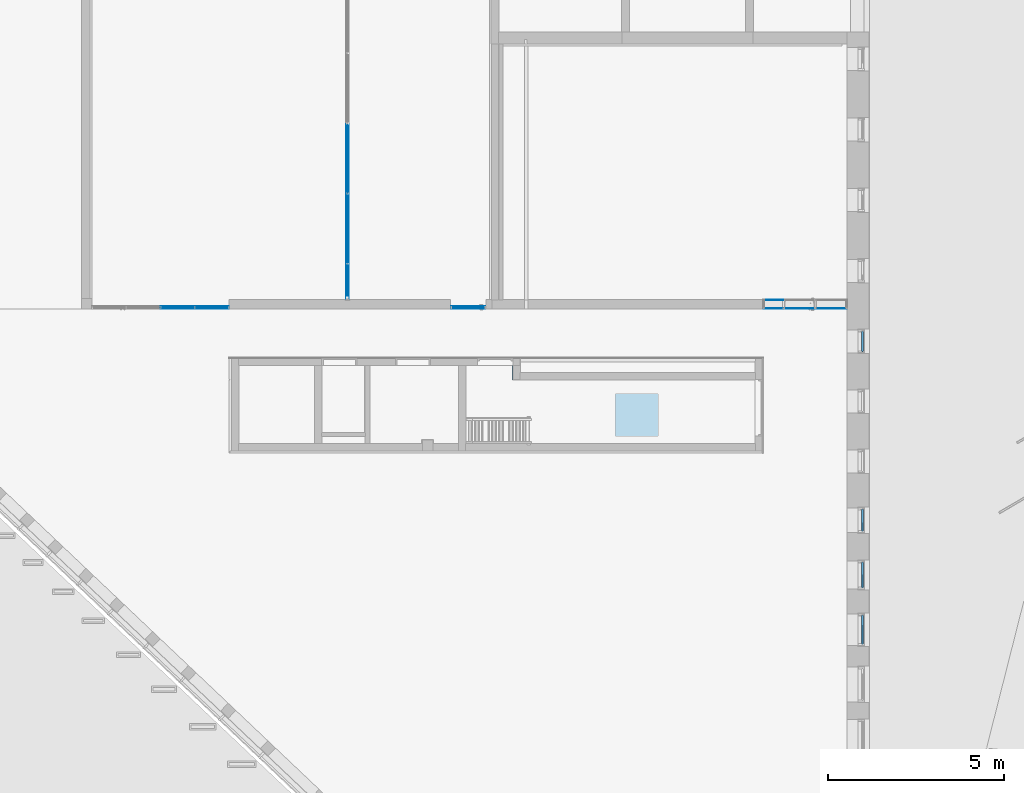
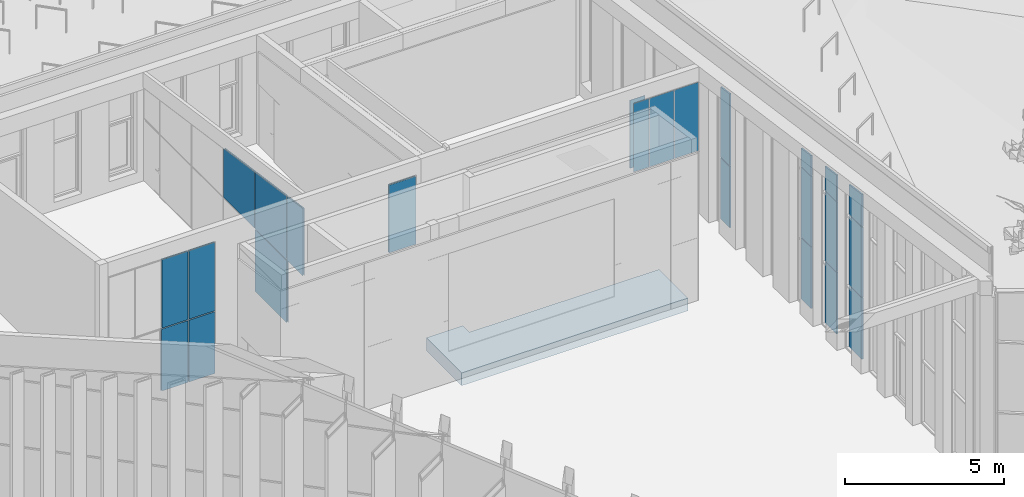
# One storey, part 103 of 246: 24 plates, 1 slab, 9 elements without a shape of their own.
"""IFC2X3 building model written with IfcOpenShell, lengths in millimetres."""

from ifc_helpers import new_model, entity, si_unit, converted_unit, derived_unit, money_unit, direction, frame, origin_with_axes, place, context, subcontext, project, spatial, faceted_brep, material, material_list, type_object, element, aggregate, save


model = new_model("IFC2X3")

# Units and contexts
model_context = context("Model", 3, precision=0.01, world=origin_with_axes(), true_north=direction((0.0, 1.0)))
body_context = subcontext(model_context, "Body", "Model", "MODEL_VIEW")
ifc_project = project(units=[si_unit("LENGTHUNIT", "METRE", prefix="MILLI"), si_unit("AREAUNIT", "SQUARE_METRE"), si_unit("VOLUMEUNIT", "CUBIC_METRE"), converted_unit("PLANEANGLEUNIT", "DEGREE", entity("IfcPlaneAngleMeasure", 0.0174532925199), si_unit("PLANEANGLEUNIT", "RADIAN"), dimensions=[0, 0, 0, 0, 0, 0, 0]), si_unit("SOLIDANGLEUNIT", "STERADIAN"), money_unit("EUR"), converted_unit("TIMEUNIT", "Year", entity("IfcTimeMeasure", 31556926.0), si_unit("TIMEUNIT", "SECOND"), dimensions=[0, 0, 1, 0, 0, 0, 0]), si_unit("MASSUNIT", "GRAM", prefix="KILO"), si_unit("THERMODYNAMICTEMPERATUREUNIT", "DEGREE_CELSIUS"), si_unit("LUMINOUSINTENSITYUNIT", "LUMEN"), si_unit("ENERGYUNIT", "JOULE", prefix="MEGA"), derived_unit("THERMALCONDUCTANCEUNIT", [(si_unit("POWERUNIT", "WATT"), 1), (si_unit("LENGTHUNIT", "METRE"), -1), (si_unit("THERMODYNAMICTEMPERATUREUNIT", "KELVIN"), -1)]), derived_unit("SPECIFICHEATCAPACITYUNIT", [(si_unit("ENERGYUNIT", "JOULE"), 1), (si_unit("MASSUNIT", "GRAM", prefix="KILO"), -1), (si_unit("THERMODYNAMICTEMPERATUREUNIT", "KELVIN"), -1)]), derived_unit("MASSDENSITYUNIT", [(si_unit("MASSUNIT", "GRAM", prefix="KILO"), 1), (si_unit("VOLUMEUNIT", "CUBIC_METRE"), -1)])], contexts=[model_context])

# Site, building, storey
site_placement = place(None, origin_with_axes())
site = spatial("IfcSite", under=ifc_project, at=site_placement, Name="L.Koidula tn 11b", CompositionType="ELEMENT")
building_placement = place(site_placement, origin_with_axes())
building = spatial("IfcBuilding", under=site, at=building_placement, Name="Rakvere Riigigümnaasium", CompositionType="ELEMENT")
storey_placement = place(building_placement, origin_with_axes())
storey = spatial("IfcBuildingStorey", under=building, at=storey_placement, Name="1.korrus 0,00", CompositionType="ELEMENT", Elevation=0.0)

# Curtain wall, plates
curtain_wall_type = type_object("IfcCurtainWallType", Name="Curtain Wall Type", PredefinedType="NOTDEFINED")
curtain_wall_1_placement = place(storey_placement, frame((47433.9999935, 52250.4459079, -7.88318499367e-05), z_axis=(0.0, 0.0, 1.0), x_axis=(1.0, 0.0, 0.0)))
curtain_wall_1 = element("IfcCurtainWall", 1, at=curtain_wall_1_placement, inside=storey, type_object=curtain_wall_type, Name="KLF-07-05")
ifc_material_1 = material(Name="Klaaspakett 3x")
plate_type_1 = type_object("IfcPlateType", Name="Distinct Panel 826 x 2676 x 54", PredefinedType="CURTAIN_PANEL")
plate_1_placement = place(curtain_wall_1_placement, frame((0.0, 0.0, 3750.00007883), z_axis=(0.0, 0.0, 1.0), x_axis=(0.0, 1.0, 0.0)))
plate_1 = element("IfcPlate", 2, at=plate_1_placement, type_object=plate_type_1, material=ifc_material_1, Name="KLF-07-05-Klaasid", ObjectType="CURTAIN_PANEL", context=body_context, shape_type="Brep", body=[
    faceted_brep([(-412.999925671, 27.0, 1338.00001341), (-412.999925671, -27.0, 1338.00001341), (412.999922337, -27.0, 1338.00001341), (412.999922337, 27.0, 1338.00001341), (-412.999965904, 27.0, -1338.00001341), (-412.999965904, -27.0, -1338.00001341), (413.000002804, -27.0, -1338.00001341), (413.000002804, 27.0, -1338.00001341)], [[[0, 1, 2, 3]], [[4, 5, 1, 0]], [[1, 5, 6, 2]], [[3, 2, 6, 7]], [[0, 3, 7, 4]], [[7, 6, 5, 4]]]),
])
plate_type_2 = type_object("IfcPlateType", Name="Distinct Panel 826 x 2351 x 54", PredefinedType="CURTAIN_PANEL")
plate_2_placement = place(curtain_wall_1_placement, frame((0.0, 4.41099814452e-05, 1200.00003942), z_axis=(0.0, 0.0, 1.0), x_axis=(0.0, 1.0, 0.0)))
plate_2 = element("IfcPlate", 3, at=plate_2_placement, type_object=plate_type_2, material=ifc_material_1, Name="KLF-07-05-Klaasid", ObjectType="CURTAIN_PANEL", context=body_context, shape_type="Brep", body=[
    faceted_brep([(-413.000014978, 27.0, 1188.00003902), (-413.000014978, -27.0, 1188.00003902), (412.999940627, -27.0, 1188.00003902), (412.999940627, 27.0, 1188.00003902), (-413.000014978, 27.0, -1163.0000382), (-413.000014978, -27.0, -1163.0000382), (413.000047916, -27.0, -1163.0000382), (413.000047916, 27.0, -1163.0000382)], [[[0, 1, 2, 3]], [[4, 5, 1, 0]], [[1, 5, 6, 2]], [[3, 2, 6, 7]], [[0, 3, 7, 4]], [[7, 6, 5, 4]]]),
])
plate_type_3 = type_object("IfcPlateType", Name="Distinct Panel 826 x 1121 x 54", PredefinedType="CURTAIN_PANEL")
plate_3_placement = place(curtain_wall_1_placement, frame((0.0, -1.35841418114e-05, 5714.45127458), z_axis=(0.0, 0.0, 1.0), x_axis=(0.0, 1.0, 0.0)))
plate_3 = element("IfcPlate", 4, at=plate_3_placement, type_object=plate_type_3, material=ifc_material_1, Name="KLF-07-05-Klaasid", ObjectType="CURTAIN_PANEL", context=body_context, shape_type="Brep", body=[
    faceted_brep([(-412.999927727, 27.0, 635.878272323), (-412.999927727, -27.0, 635.878272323), (412.999947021, -27.0, 518.277880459), (412.999947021, 27.0, 518.277880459), (-412.999927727, 27.0, -602.451190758), (-412.999927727, -27.0, -602.451190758), (412.999908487, -27.0, -602.451190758), (412.999908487, 27.0, -602.451190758)], [[[0, 1, 2, 3]], [[4, 5, 1, 0]], [[1, 5, 6, 2]], [[3, 2, 6, 7]], [[0, 3, 7, 4]], [[7, 6, 5, 4]]]),
])
aggregate(curtain_wall_1, [plate_1, plate_2, plate_3])

curtain_wall_2_placement = place(storey_placement, frame((47433.9999935, 53800.4459212, -2.62174737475e-05), z_axis=(0.0, 0.0, 1.0), x_axis=(1.0, 0.0, 0.0)))
curtain_wall_2 = element("IfcCurtainWall", 5, at=curtain_wall_2_placement, inside=storey, type_object=curtain_wall_type, Name="KLF-07-06")
plate_type_4 = type_object("IfcPlateType", Name="Distinct Panel 726 x 2676 x 54", PredefinedType="CURTAIN_PANEL")
plate_4_placement = place(curtain_wall_2_placement, frame((0.0, 0.0, 3750.00002622), z_axis=(0.0, 0.0, 1.0), x_axis=(0.0, 1.0, 0.0)))
plate_4 = element("IfcPlate", 6, at=plate_4_placement, type_object=plate_type_4, material=ifc_material_1, Name="KLF-07-06-Klaasid", ObjectType="CURTAIN_PANEL", context=body_context, shape_type="Brep", body=[
    faceted_brep([(-362.999899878, 27.0, 1338.00001341), (-362.999899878, -27.0, 1338.00001341), (362.999912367, -27.0, 1338.00001341), (362.999912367, 27.0, 1338.00001341), (-362.999980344, 27.0, -1338.00001341), (-362.999980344, -27.0, -1338.00001341), (362.999992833, -27.0, -1338.00001341), (362.999992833, 27.0, -1338.00001341)], [[[0, 1, 2, 3]], [[4, 5, 1, 0]], [[1, 5, 6, 2]], [[3, 2, 6, 7]], [[0, 3, 7, 4]], [[7, 6, 5, 4]]]),
])
plate_type_5 = type_object("IfcPlateType", Name="Distinct Panel 726 x 2351 x 54", PredefinedType="CURTAIN_PANEL")
plate_5_placement = place(curtain_wall_2_placement, frame((0.0, 2.35839081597e-05, 1200.00001311), z_axis=(0.0, 0.0, 1.0), x_axis=(0.0, 1.0, 0.0)))
plate_5 = element("IfcPlate", 7, at=plate_5_placement, type_object=plate_type_5, material=ifc_material_1, Name="KLF-07-06-Klaasid", ObjectType="CURTAIN_PANEL", context=body_context, shape_type="Brep", body=[
    faceted_brep([(-363.000023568, 27.0, 1188.00001298), (-363.000023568, -27.0, 1188.00001298), (362.9999486, -27.0, 1188.00001298), (362.9999486, 27.0, 1188.00001298), (-363.000023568, 27.0, -1163.0000127), (-363.000023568, -27.0, -1163.0000127), (363.000055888, -27.0, -1163.0000127), (363.000055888, 27.0, -1163.0000127)], [[[0, 1, 2, 3]], [[4, 5, 1, 0]], [[1, 5, 6, 2]], [[3, 2, 6, 7]], [[0, 3, 7, 4]], [[7, 6, 5, 4]]]),
])
plate_type_6 = type_object("IfcPlateType", Name="Distinct Panel 726 x 907 x 54", PredefinedType="CURTAIN_PANEL")
plate_6_placement = place(curtain_wall_2_placement, frame((0.0, 4.39052882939e-06, 5604.1117534), z_axis=(0.0, 0.0, 1.0), x_axis=(0.0, 1.0, 0.0)))
plate_6 = element("IfcPlate", 8, at=plate_6_placement, type_object=plate_type_6, material=ifc_material_1, Name="KLF-07-06-Klaasid", ObjectType="CURTAIN_PANEL", context=body_context, shape_type="Brep", body=[
    faceted_brep([(-362.999909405, 27.0, 518.420147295), (-362.999909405, -27.0, 518.420147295), (362.999918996, -27.0, 415.057079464), (362.999918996, 27.0, 415.057079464), (-362.999909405, 27.0, -492.111724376), (-362.999909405, -27.0, -492.111724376), (362.999887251, -27.0, -492.111724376), (362.999887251, 27.0, -492.111724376)], [[[0, 1, 2, 3]], [[4, 5, 1, 0]], [[1, 5, 6, 2]], [[3, 2, 6, 7]], [[0, 3, 7, 4]], [[7, 6, 5, 4]]]),
])
aggregate(curtain_wall_2, [plate_4, plate_5, plate_6])

curtain_wall_3_placement = place(storey_placement, frame((47433.9999935, 55350.4459233, 0.0), z_axis=(0.0, 0.0, 1.0), x_axis=(1.0, 0.0, 0.0)))
curtain_wall_3 = element("IfcCurtainWall", 9, at=curtain_wall_3_placement, inside=storey, type_object=curtain_wall_type, Name="KLF-07-07")
plate_type_7 = type_object("IfcPlateType", Name="Distinct Panel 626 x 2676 x 54", PredefinedType="CURTAIN_PANEL")
plate_7_placement = place(curtain_wall_3_placement, frame((0.0, 0.0, 3750.0), z_axis=(0.0, 0.0, 1.0), x_axis=(0.0, 1.0, 0.0)))
plate_7 = element("IfcPlate", 10, at=plate_7_placement, type_object=plate_type_7, material=ifc_material_1, Name="KLF-07-07-Klaasid", ObjectType="CURTAIN_PANEL", context=body_context, shape_type="Brep", body=[
    faceted_brep([(-312.999976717, 27.0, 1338.00001341), (-312.999976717, -27.0, 1338.00001341), (313.000041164, -27.0, 1338.00001341), (313.000041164, 27.0, 1338.00001341), (-313.000097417, 27.0, -1338.00001341), (-313.000097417, -27.0, -1338.00001341), (313.000041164, -27.0, -1338.00001341), (313.000041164, 27.0, -1338.00001341)], [[[0, 1, 2, 3]], [[4, 5, 1, 0]], [[1, 5, 6, 2]], [[3, 2, 6, 7]], [[0, 3, 7, 4]], [[7, 6, 5, 4]]]),
])
plate_type_8 = type_object("IfcPlateType", Name="Distinct Panel 626 x 2351 x 54", PredefinedType="CURTAIN_PANEL")
plate_8_placement = place(curtain_wall_3_placement, frame((0.0, -5.73527998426e-05, 1200.0), z_axis=(0.0, 0.0, 1.0), x_axis=(0.0, 1.0, 0.0)))
plate_8 = element("IfcPlate", 11, at=plate_8_placement, type_object=plate_type_8, material=ifc_material_1, Name="KLF-07-07-Klaasid", ObjectType="CURTAIN_PANEL", context=body_context, shape_type="Brep", body=[
    faceted_brep([(-313.000049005, 27.0, 1188.0), (-313.000049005, -27.0, 1188.0), (313.000094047, -27.0, 1188.0), (313.000094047, 27.0, 1188.0), (-313.00012053, 27.0, -1163.0), (-313.00012053, -27.0, -1163.0), (313.000094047, -27.0, -1163.0), (313.000094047, 27.0, -1163.0)], [[[0, 1, 2, 3]], [[4, 5, 1, 0]], [[1, 5, 6, 2]], [[3, 2, 6, 7]], [[0, 3, 7, 4]], [[7, 6, 5, 4]]]),
])
plate_type_9 = type_object("IfcPlateType", Name="Distinct Panel 626 x 694 x 54", PredefinedType="CURTAIN_PANEL")
plate_9_placement = place(curtain_wall_3_placement, frame((0.0, 3.58460283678e-05, 5493.77228631), z_axis=(0.0, 0.0, 1.0), x_axis=(0.0, 1.0, 0.0)))
plate_9 = element("IfcPlate", 12, at=plate_9_placement, type_object=plate_type_9, material=ifc_material_1, Name="KLF-07-07-Klaasid", ObjectType="CURTAIN_PANEL", context=body_context, shape_type="Brep", body=[
    faceted_brep([(-312.999998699, 27.0, 400.962070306), (-312.999998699, -27.0, 400.962070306), (313.00000516, -27.0, 311.836256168), (313.00000516, 27.0, 311.836256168), (-312.999998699, 27.0, -381.772287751), (-312.999998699, -27.0, -381.772287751), (313.00000516, -27.0, -381.772287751), (313.00000516, 27.0, -381.772287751)], [[[0, 1, 2, 3]], [[4, 5, 1, 0]], [[1, 5, 6, 2]], [[3, 2, 6, 7]], [[0, 3, 7, 4]], [[7, 6, 5, 4]]]),
])
aggregate(curtain_wall_3, [plate_7, plate_8, plate_9])

curtain_wall_4_placement = place(storey_placement, frame((47434.0004775, 60420.4546099, 0.0), z_axis=(0.0, 0.0, 1.0), x_axis=(1.0, 0.0, 0.0)))
curtain_wall_4 = element("IfcCurtainWall", 13, at=curtain_wall_4_placement, inside=storey, type_object=curtain_wall_type, Name="KLF-07-10")
plate_type_10 = type_object("IfcPlateType", Name="Distinct Panel 576 x 2351 x 54", PredefinedType="CURTAIN_PANEL")
plate_10_placement = place(curtain_wall_4_placement, frame((0.0, 2.4862501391e-05, 1200.0), z_axis=(0.0, 0.0, 1.0), x_axis=(0.0, 1.0, 0.0)))
plate_10 = element("IfcPlate", 14, at=plate_10_placement, type_object=plate_type_10, material=ifc_material_1, Name="KLF-07-10-Klaasid", ObjectType="CURTAIN_PANEL", context=body_context, shape_type="Brep", body=[
    faceted_brep([(-288.000035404, 27.0, 1188.0), (-288.000035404, -27.0, 1188.0), (288.000000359, -27.0, 1188.0), (288.000000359, 27.0, 1188.0), (-288.000035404, 27.0, -1163.0), (-288.000035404, -27.0, -1163.0), (288.000071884, -27.0, -1163.0), (288.000071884, 27.0, -1163.0)], [[[0, 1, 2, 3]], [[4, 5, 1, 0]], [[1, 5, 6, 2]], [[3, 2, 6, 7]], [[0, 3, 7, 4]], [[7, 6, 5, 4]]]),
])
plate_type_11 = type_object("IfcPlateType", Name="Distinct Panel 576 x 2675 x 54", PredefinedType="CURTAIN_PANEL")
plate_11_placement = place(curtain_wall_4_placement, frame((0.0, 0.0, 3782.85492655), z_axis=(0.0, 0.0, 1.0), x_axis=(0.0, 1.0, 0.0)))
plate_11 = element("IfcPlate", 15, at=plate_11_placement, type_object=plate_type_11, material=ifc_material_1, Name="KLF-07-10-Klaasid", ObjectType="CURTAIN_PANEL", context=body_context, shape_type="Brep", body=[
    faceted_brep([(-288.000009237, 27.0, 1386.48535946), (-288.000009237, -27.0, 1386.48535946), (288.000039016, -27.0, 1304.4782495), (288.000039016, 27.0, 1304.4782495), (-288.000009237, 27.0, -1370.8549142), (-288.000009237, -27.0, -1370.8549142), (288.000039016, -27.0, -1370.8549142), (288.000039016, 27.0, -1370.8549142)], [[[0, 1, 2, 3]], [[4, 5, 1, 0]], [[1, 5, 6, 2]], [[3, 2, 6, 7]], [[0, 3, 7, 4]], [[7, 6, 5, 4]]]),
])
aggregate(curtain_wall_4, [plate_11, plate_10])

# Curtain wall, plate
curtain_wall_5_placement = place(storey_placement, frame((36265.0251025, 61372.4546496, -0.000126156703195), z_axis=(0.0, 0.0, 1.0), x_axis=(1.0, 0.0, 0.0)))
curtain_wall_5 = element("IfcCurtainWall", 16, at=curtain_wall_5_placement, inside=storey, type_object=curtain_wall_type, Name="SKLF-03")
ifc_material_2 = material(Name="VKR-05_Klaas")
plate_type_12 = type_object("IfcPlateType", Name="Siseklaasfassaad - Klaas-Doubleline30 970 x 2598 x 17", PredefinedType="CURTAIN_PANEL")
plate_12_placement = place(curtain_wall_5_placement, frame((0.0, 0.0, 3725.00010875), z_axis=(0.0, 0.0, 1.0), x_axis=(-1.0, 0.0, 0.0)))
plate_12 = element("IfcPlate", 17, at=plate_12_placement, type_object=plate_type_12, material=ifc_material_2, Name="Panel-Siseklaasf-002", ObjectType="CURTAIN_PANEL", context=body_context, shape_type="Brep", body=[
    faceted_brep([(-484.999986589, -37.0, 1287.9999918), (485.000005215, -37.0, 1287.9999918), (485.000005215, -25.0, 1287.9999918), (-484.999986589, -25.0, 1287.9999918), (-484.999986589, -37.0, -1310.00000522), (485.000005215, -37.0, -1310.00000522), (485.000005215, -25.0, -1310.00000522), (-484.999986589, -25.0, -1310.00000522)], [[[0, 1, 2, 3]], [[0, 4, 5, 1]], [[1, 5, 6, 2]], [[3, 2, 6, 7]], [[4, 0, 3, 7]], [[5, 4, 7, 6]]]),
    faceted_brep([(-484.999986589, 15.0, 1287.9999918), (485.000005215, 15.0, 1287.9999918), (485.000005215, 27.0, 1287.9999918), (-484.999986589, 27.0, 1287.9999918), (-484.999986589, 15.0, -1310.00000522), (485.000005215, 15.0, -1310.00000522), (485.000005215, 27.0, -1310.00000522), (-484.999986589, 27.0, -1310.00000522)], [[[0, 1, 2, 3]], [[0, 4, 5, 1]], [[1, 5, 6, 2]], [[3, 2, 6, 7]], [[4, 0, 3, 7]], [[5, 4, 7, 6]]]),
])
aggregate(curtain_wall_5, [plate_12])

# Curtain wall, plates
curtain_wall_6_placement = place(storey_placement, frame((26572.4999007, 61372.4546496, 0.0), z_axis=(0.0, 0.0, 1.0), x_axis=(1.0, 0.0, 0.0)))
curtain_wall_6 = element("IfcCurtainWall", 18, at=curtain_wall_6_placement, inside=storey, type_object=curtain_wall_type, Name="SKLF-01")
plate_type_13 = type_object("IfcPlateType", Name="Siseklaasfassaad - Klaas-Doubleline30 955 x 2368 x 17", PredefinedType="CURTAIN_PANEL")
plate_13_placement = place(curtain_wall_6_placement, frame((1458.75, 0.0, 1200.0), z_axis=(0.0, 0.0, 1.0), x_axis=(-1.0, 0.0, 0.0)))
plate_13 = element("IfcPlate", 19, at=plate_13_placement, type_object=plate_type_13, material=ifc_material_2, Name="Panel-Siseklaasf-019", ObjectType="CURTAIN_PANEL", context=body_context, shape_type="Brep", body=[
    faceted_brep([(-469.249964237, -37.0, 1182.99996424), (486.25, -37.0, 1182.99996424), (486.25, -25.0, 1182.99996424), (-469.249964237, -25.0, 1182.99996424), (-469.249964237, -37.0, -1185.0), (486.25, -37.0, -1185.0), (486.25, -25.0, -1185.0), (-469.249964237, -25.0, -1185.0)], [[[0, 1, 2, 3]], [[0, 4, 5, 1]], [[1, 5, 6, 2]], [[3, 2, 6, 7]], [[4, 0, 3, 7]], [[5, 4, 7, 6]]]),
    faceted_brep([(-469.249964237, 15.0, 1182.99996424), (486.25, 15.0, 1182.99996424), (486.25, 27.0, 1182.99996424), (-469.249964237, 27.0, 1182.99996424), (-469.249964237, 15.0, -1185.0), (486.25, 15.0, -1185.0), (486.25, 27.0, -1185.0), (-469.249964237, 27.0, -1185.0)], [[[0, 1, 2, 3]], [[0, 4, 5, 1]], [[1, 5, 6, 2]], [[3, 2, 6, 7]], [[4, 0, 3, 7]], [[5, 4, 7, 6]]]),
])
plate_type_14 = type_object("IfcPlateType", Name="Siseklaasfassaad - Klaas-Doubleline30 940 x 2368 x 17", PredefinedType="CURTAIN_PANEL")
plate_14_placement = place(curtain_wall_6_placement, frame((2431.24504537, 0.0, 1200.0), z_axis=(0.0, 0.0, 1.0), x_axis=(-1.0, 0.0, 0.0)))
plate_14 = element("IfcPlate", 20, at=plate_14_placement, type_object=plate_type_14, material=ifc_material_2, Name="Panel-Siseklaasf-019", ObjectType="CURTAIN_PANEL", context=body_context, shape_type="Brep", body=[
    faceted_brep([(-471.245048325, -37.0, 1182.99996424), (469.245009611, -37.0, 1182.99996424), (469.245009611, -25.0, 1182.99996424), (-471.245048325, -25.0, 1182.99996424), (-471.245048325, -37.0, -1185.0), (469.245009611, -37.0, -1185.0), (469.245009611, -25.0, -1185.0), (-471.245048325, -25.0, -1185.0)], [[[0, 1, 2, 3]], [[0, 4, 5, 1]], [[1, 5, 6, 2]], [[3, 2, 6, 7]], [[4, 0, 3, 7]], [[5, 4, 7, 6]]]),
    faceted_brep([(-471.245048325, 15.0, 1182.99996424), (469.245009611, 15.0, 1182.99996424), (469.245009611, 27.0, 1182.99996424), (-471.245048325, 27.0, 1182.99996424), (-471.245048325, 15.0, -1185.0), (469.245009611, 15.0, -1185.0), (469.245009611, 27.0, -1185.0), (-471.245048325, 27.0, -1185.0)], [[[0, 1, 2, 3]], [[0, 4, 5, 1]], [[1, 5, 6, 2]], [[3, 2, 6, 7]], [[4, 0, 3, 7]], [[5, 4, 7, 6]]]),
])
plate_type_15 = type_object("IfcPlateType", Name="Siseklaasfassaad - Klaas-Doubleline30 938 x 2618 x 17", PredefinedType="CURTAIN_PANEL")
plate_15_placement = place(curtain_wall_6_placement, frame((1458.75, 0.0, 3725.0), z_axis=(0.0, 0.0, 1.0), x_axis=(-1.0, 0.0, 0.0)))
plate_15 = element("IfcPlate", 21, at=plate_15_placement, type_object=plate_type_15, material=ifc_material_2, Name="Panel-Siseklaasf-019", ObjectType="CURTAIN_PANEL", context=body_context, shape_type="Brep", body=[
    faceted_brep([(-469.24999553, -37.0, 1310.00000522), (469.249971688, -37.0, 1310.00000522), (469.249971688, -25.0, 1310.00000522), (-469.24999553, -25.0, 1310.00000522), (-469.24999553, -37.0, -1307.99997169), (469.249971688, -37.0, -1307.99997169), (469.249971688, -25.0, -1307.99997169), (-469.24999553, -25.0, -1307.99997169)], [[[0, 1, 2, 3]], [[0, 4, 5, 1]], [[1, 5, 6, 2]], [[3, 2, 6, 7]], [[4, 0, 3, 7]], [[5, 4, 7, 6]]]),
    faceted_brep([(-469.24999553, 15.0, 1310.00000522), (469.249971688, 15.0, 1310.00000522), (469.249971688, 27.0, 1310.00000522), (-469.24999553, 27.0, 1310.00000522), (-469.24999553, 15.0, -1307.99997169), (469.249971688, 15.0, -1307.99997169), (469.249971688, 27.0, -1307.99997169), (-469.24999553, 27.0, -1307.99997169)], [[[0, 1, 2, 3]], [[0, 4, 5, 1]], [[1, 5, 6, 2]], [[3, 2, 6, 7]], [[4, 0, 3, 7]], [[5, 4, 7, 6]]]),
])
plate_type_16 = type_object("IfcPlateType", Name="Siseklaasfassaad - Klaas-Doubleline30 940 x 2618 x 17", PredefinedType="CURTAIN_PANEL")
plate_16_placement = place(curtain_wall_6_placement, frame((2431.24504537, 0.0, 3725.0), z_axis=(0.0, 0.0, 1.0), x_axis=(-1.0, 0.0, 0.0)))
plate_16 = element("IfcPlate", 22, at=plate_16_placement, type_object=plate_type_16, material=ifc_material_2, Name="Panel-Siseklaasf-019", ObjectType="CURTAIN_PANEL", context=body_context, shape_type="Brep", body=[
    faceted_brep([(-471.245032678, -37.0, 1310.00000522), (469.245017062, -37.0, 1310.00000522), (469.245017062, -25.0, 1310.00000522), (-471.245032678, -25.0, 1310.00000522), (-471.245032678, -37.0, -1307.99997169), (469.245017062, -37.0, -1307.99997169), (469.245017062, -25.0, -1307.99997169), (-471.245032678, -25.0, -1307.99997169)], [[[0, 1, 2, 3]], [[0, 4, 5, 1]], [[1, 5, 6, 2]], [[3, 2, 6, 7]], [[4, 0, 3, 7]], [[5, 4, 7, 6]]]),
    faceted_brep([(-471.245032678, 15.0, 1310.00000522), (469.245017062, 15.0, 1310.00000522), (469.245017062, 27.0, 1310.00000522), (-471.245032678, 27.0, 1310.00000522), (-471.245032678, 15.0, -1307.99997169), (469.245017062, 15.0, -1307.99997169), (469.245017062, 27.0, -1307.99997169), (-471.245032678, 27.0, -1307.99997169)], [[[0, 1, 2, 3]], [[0, 4, 5, 1]], [[1, 5, 6, 2]], [[3, 2, 6, 7]], [[4, 0, 3, 7]], [[5, 4, 7, 6]]]),
])
aggregate(curtain_wall_6, [plate_13, plate_14, plate_15, plate_16])

curtain_wall_7_placement = place(storey_placement, frame((32835.0202258, 67589.2016838, 0.0), z_axis=(0.0, 0.0, 1.0), x_axis=(1.0, 0.0, 0.0)))
curtain_wall_7 = element("IfcCurtainWall", 23, at=curtain_wall_7_placement, inside=storey, type_object=curtain_wall_type, Name="SKLF-02")
plate_type_17 = type_object("IfcPlateType", Name="Siseklaasfassaad - Klaas-Doubleline30 1970 x 2368 x 17", PredefinedType="CURTAIN_PANEL")
plate_17_placement = place(curtain_wall_7_placement, frame((0.0, -3975.0, 1200.0), z_axis=(0.0, 0.0, 1.0), x_axis=(0.0, 1.0, 0.0)))
plate_17 = element("IfcPlate", 24, at=plate_17_placement, type_object=plate_type_17, material=ifc_material_2, Name="Panel-Siseklaasf-040", ObjectType="CURTAIN_PANEL", context=body_context, shape_type="Brep", body=[
    faceted_brep([(-993.75, -37.0, 1182.99996424), (976.749964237, -37.0, 1182.99996424), (976.749964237, -25.0, 1182.99996424), (-993.75, -25.0, 1182.99996424), (-993.75, -37.0, -1185.0), (976.749964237, -37.0, -1185.0), (976.749964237, -25.0, -1185.0), (-993.75, -25.0, -1185.0)], [[[0, 1, 2, 3]], [[0, 4, 5, 1]], [[1, 5, 6, 2]], [[3, 2, 6, 7]], [[4, 0, 3, 7]], [[5, 4, 7, 6]]]),
    faceted_brep([(-993.75, 15.0, 1182.99996424), (976.749964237, 15.0, 1182.99996424), (976.749964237, 27.0, 1182.99996424), (-993.75, 27.0, 1182.99996424), (-993.75, 15.0, -1185.0), (976.749964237, 15.0, -1185.0), (976.749964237, 27.0, -1185.0), (-993.75, 27.0, -1185.0)], [[[0, 1, 2, 3]], [[0, 4, 5, 1]], [[1, 5, 6, 2]], [[3, 2, 6, 7]], [[4, 0, 3, 7]], [[5, 4, 7, 6]]]),
])
plate_type_18 = type_object("IfcPlateType", Name="Siseklaasfassaad - Klaas-Doubleline30 1953 x 2156 x 17", PredefinedType="CURTAIN_PANEL")
plate_18_placement = place(curtain_wall_7_placement, frame((0.0, -3975.0, 3563.45531941), z_axis=(0.0, 0.0, 1.0), x_axis=(0.0, 1.0, 0.0)))
plate_18 = element("IfcPlate", 25, at=plate_18_placement, type_object=plate_type_18, material=ifc_material_2, Name="Panel-Siseklaasf-028", ObjectType="CURTAIN_PANEL", context=body_context, shape_type="Brep", body=[
    faceted_brep([(-976.749972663, -37.0, 1287.34881767), (976.749978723, -37.0, 1009.25937797), (976.749978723, -25.0, 1009.25937797), (-976.749972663, -25.0, 1287.34881767), (-976.749972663, -37.0, -1146.45529813), (976.749978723, -37.0, -1146.45529813), (976.749978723, -25.0, -1146.45529813), (-976.749972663, -25.0, -1146.45529813)], [[[0, 1, 2, 3]], [[0, 4, 5, 1]], [[1, 5, 6, 2]], [[3, 2, 6, 7]], [[4, 0, 3, 7]], [[5, 4, 7, 6]]]),
    faceted_brep([(-976.749972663, 15.0, 1287.34881767), (976.749978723, 15.0, 1009.25937797), (976.749978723, 27.0, 1009.25937797), (-976.749972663, 27.0, 1287.34881767), (-976.749972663, 15.0, -1146.45529813), (976.749978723, 15.0, -1146.45529813), (976.749978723, 27.0, -1146.45529813), (-976.749972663, 27.0, -1146.45529813)], [[[0, 1, 2, 3]], [[0, 4, 5, 1]], [[1, 5, 6, 2]], [[3, 2, 6, 7]], [[4, 0, 3, 7]], [[5, 4, 7, 6]]]),
])
plate_type_19 = type_object("IfcPlateType", Name="Siseklaasfassaad - Klaas-Doubleline30 1953 x 1873 x 17", PredefinedType="CURTAIN_PANEL")
plate_19_placement = place(curtain_wall_7_placement, frame((0.0, -1987.5, 3421.99050608), z_axis=(0.0, 0.0, 1.0), x_axis=(0.0, 1.0, 0.0)))
plate_19 = element("IfcPlate", 26, at=plate_19_placement, type_object=plate_type_19, material=ifc_material_2, Name="Panel-Siseklaasf-027", ObjectType="CURTAIN_PANEL", context=body_context, shape_type="Brep", body=[
    faceted_brep([(-976.749983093, -37.0, 1145.88410336), (976.749981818, -37.0, 867.794447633), (976.749981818, -25.0, 867.794447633), (-976.749983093, -25.0, 1145.88410336), (-976.749983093, -37.0, -1004.9904879), (976.749981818, -37.0, -1004.9904879), (976.749981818, -25.0, -1004.9904879), (-976.749983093, -25.0, -1004.9904879)], [[[0, 1, 2, 3]], [[0, 4, 5, 1]], [[1, 5, 6, 2]], [[3, 2, 6, 7]], [[4, 0, 3, 7]], [[5, 4, 7, 6]]]),
    faceted_brep([(-976.749983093, 15.0, 1145.88410336), (976.749981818, 15.0, 867.794447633), (976.749981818, 27.0, 867.794447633), (-976.749983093, 27.0, 1145.88410336), (-976.749983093, 15.0, -1004.9904879), (976.749981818, 15.0, -1004.9904879), (976.749981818, 27.0, -1004.9904879), (-976.749983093, 27.0, -1004.9904879)], [[[0, 1, 2, 3]], [[0, 4, 5, 1]], [[1, 5, 6, 2]], [[3, 2, 6, 7]], [[4, 0, 3, 7]], [[5, 4, 7, 6]]]),
])
plate_type_20 = type_object("IfcPlateType", Name="Siseklaasfassaad - Klaas-Doubleline30 89 x 2441 x 17", PredefinedType="CURTAIN_PANEL")
plate_20_placement = place(curtain_wall_7_placement, frame((0.0, -5565.67522456, 3933.67508297), z_axis=(0.0, 0.0, 1.0), x_axis=(0.0, 1.0, 0.0)))
plate_20 = element("IfcPlate", 27, at=plate_20_placement, type_object=plate_type_20, material=ifc_material_2, Name="Panel-Siseklaasf-041", ObjectType="CURTAIN_PANEL", context=body_context, shape_type="Brep", body=[
    faceted_brep([(-418.074772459, -37.0, 1051.32492299), (-328.763272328, -37.0, 1051.32492299), (-328.763272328, -25.0, 1051.32492299), (-418.074772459, -25.0, 1051.32492299), (-418.074772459, -37.0, -1518.67508893), (579.925197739, -37.0, -1518.67508893), (579.925197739, -37.0, 921.969142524), (579.925197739, -25.0, 921.969142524), (579.925197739, -25.0, -1518.67508893), (-418.074772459, -25.0, -1518.67508893)], [[[0, 1, 2, 3]], [[0, 4, 5, 6, 1]], [[1, 6, 7, 2]], [[3, 2, 7, 8, 9]], [[4, 0, 3, 9]], [[5, 4, 9, 8]], [[6, 5, 8, 7]]]),
    faceted_brep([(-418.074772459, 15.0, 1051.32492299), (-328.763272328, 15.0, 1051.32492299), (-328.763272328, 27.0, 1051.32492299), (-418.074772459, 27.0, 1051.32492299), (-418.074772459, 15.0, -1518.67508893), (579.925197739, 15.0, -1518.67508893), (579.925197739, 15.0, 921.969142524), (579.925197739, 27.0, 921.969142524), (579.925197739, 27.0, -1518.67508893), (-418.074772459, 27.0, -1518.67508893)], [[[0, 1, 2, 3]], [[0, 4, 5, 6, 1]], [[1, 6, 7, 2]], [[3, 2, 7, 8, 9]], [[4, 0, 3, 9]], [[5, 4, 9, 8]], [[6, 5, 8, 7]]]),
])
aggregate(curtain_wall_7, [plate_17, plate_18, plate_19, plate_20])

curtain_wall_8_placement = place(storey_placement, frame((46459.9999921, 61346.4546496, -4.47035262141e-05), z_axis=(0.0, 0.0, 1.0), x_axis=(1.0, 0.0, 0.0)))
curtain_wall_8 = element("IfcCurtainWall", 28, at=curtain_wall_8_placement, inside=storey, type_object=curtain_wall_type, Name="SKLF-04")
plate_type_21 = type_object("IfcPlateType", Name="Siseklaasfassaad - Klaas 870 x 35 x 17", PredefinedType="CURTAIN_PANEL")
plate_21_placement = place(curtain_wall_8_placement, frame((0.0, 0.0, 3980.00003806), z_axis=(0.0, 0.0, 1.0), x_axis=(-1.0, 0.0, 0.0)))
plate_21 = element("IfcPlate", 29, at=plate_21_placement, type_object=plate_type_21, material=ifc_material_2, Name="Panel-Siseklaasf-023", ObjectType="CURTAIN_PANEL", context=body_context, shape_type="Brep", body=[
    faceted_brep([(-525.000007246, -15.5, 1055.00001186), (344.999966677, -15.5, 1055.00001186), (344.999966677, 1.50000000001, 1055.00001186), (-525.000007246, 1.50000000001, 1055.00001186), (-525.000007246, -15.5, -1564.99999857), (344.999966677, -15.5, -1564.99999857), (344.999966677, 1.50000000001, -1564.99999857), (-525.000007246, 1.50000000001, -1564.99999857)], [[[0, 1, 2, 3]], [[0, 4, 5, 1]], [[1, 5, 6, 2]], [[3, 2, 6, 7]], [[4, 0, 3, 7]], [[5, 4, 7, 6]]]),
])
plate_22_placement = place(curtain_wall_8_placement, frame((-810.00000095, 0.0, 4150.00004617), z_axis=(0.0, 0.0, 1.0), x_axis=(-1.0, 0.0, 0.0)))
plate_22 = element("IfcPlate", 30, at=plate_22_placement, type_object=plate_type_21, material=ifc_material_2, Name="Panel-Siseklaasf-022", ObjectType="CURTAIN_PANEL", context=body_context, shape_type="Brep", body=[
    faceted_brep([(-434.999968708, -15.5, 885.000003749), (434.999965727, -15.5, 885.000003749), (434.999965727, 1.5, 885.000003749), (-434.999968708, 1.5, 885.000003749), (-434.999968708, -15.5, -1735.00000668), (434.999965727, -15.5, -1735.00000668), (434.999965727, 1.5, -1735.00000668), (-434.999968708, 1.5, -1735.00000668)], [[[0, 1, 2, 3]], [[0, 4, 5, 1]], [[1, 5, 6, 2]], [[3, 2, 6, 7]], [[4, 0, 3, 7]], [[5, 4, 7, 6]]]),
])
plate_type_22 = type_object("IfcPlateType", Name="Siseklaasfassaad - Klaas 550 x 2620 x 17", PredefinedType="CURTAIN_PANEL")
plate_23_placement = place(curtain_wall_8_placement, frame((-1546.77778107, 0.0, 3716.66671837), z_axis=(0.0, 0.0, 1.0), x_axis=(-1.0, 0.0, 0.0)))
plate_23 = element("IfcPlate", 31, at=plate_23_placement, type_object=plate_type_22, material=ifc_material_2, Name="Panel-Siseklaasf-021", ObjectType="CURTAIN_PANEL", context=body_context, shape_type="Brep", body=[
    faceted_brep([(-271.777754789, -15.5, 1318.33333154), (278.222225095, -15.5, 1318.33333154), (278.222225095, 1.5, 1318.33333154), (-271.777754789, 1.5, 1318.33333154), (-271.777754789, -15.5, -1301.6666394), (278.222225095, -15.5, -1301.6666394), (278.222225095, 1.5, -1301.6666394), (-271.777754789, 1.5, -1301.6666394)], [[[0, 1, 2, 3]], [[0, 4, 5, 1]], [[1, 5, 6, 2]], [[3, 2, 6, 7]], [[4, 0, 3, 7]], [[5, 4, 7, 6]]]),
])
aggregate(curtain_wall_8, [plate_21, plate_22, plate_23])

# Curtain wall, plate
curtain_wall_9_placement = place(storey_placement, frame((46549.9999923, 61580.5357918, -4.47035262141e-05), z_axis=(0.0, 0.0, 1.0), x_axis=(1.0, 0.0, 0.0)))
curtain_wall_9 = element("IfcCurtainWall", 32, at=curtain_wall_9_placement, inside=storey, type_object=curtain_wall_type, Name="SKLF-05")
plate_type_23 = type_object("IfcPlateType", Name="Siseklaasfassaad - Klaas 550 x 2601 x 17", PredefinedType="CURTAIN_PANEL")
plate_24_placement = place(curtain_wall_9_placement, frame((-1640.00000119, 0.0, 3725.0000447), z_axis=(0.0, 0.0, 1.0), x_axis=(-1.0, 0.0, 0.0)))
plate_24 = element("IfcPlate", 33, at=plate_24_placement, type_object=plate_type_23, material=ifc_material_2, Name="Panel-Siseklaasf-031", ObjectType="CURTAIN_PANEL", context=body_context, shape_type="Brep", body=[
    faceted_brep([(-274.999974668, -15.5, 1291.4982439), (275.000005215, -15.5, 1291.4982439), (275.000005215, 1.5, 1291.4982439), (-274.999974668, 1.5, 1291.4982439), (-274.999974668, -15.5, -1309.99996573), (275.000005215, -15.5, -1309.99996573), (275.000005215, 1.5, -1309.99996573), (-274.999974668, 1.5, -1309.99996573)], [[[0, 1, 2, 3]], [[0, 4, 5, 1]], [[1, 5, 6, 2]], [[3, 2, 6, 7]], [[4, 0, 3, 7]], [[5, 4, 7, 6]]]),
])
aggregate(curtain_wall_9, [plate_24])

# Slab
ifc_material_3 = material(Name="Polükarbamiid-2")
ifc_material_4 = material(Name="Betoon - pealevalu")
ifc_material_5 = material(Name="Betoon element / plaat")
ifc_material_6 = material(Name="Soojustus - EPS")
ifc_material_7 = material(Name="Killustik")
ifc_material_list = material_list([ifc_material_3, ifc_material_4, ifc_material_5, ifc_material_6, ifc_material_6, ifc_material_7])
slab_type = type_object("IfcSlabType", Name="PP-01-2 490", PredefinedType="NOTDEFINED")
slab_placement = place(storey_placement, frame((36199.9999713, 57520.4546496, 0.0), z_axis=(0.0, 0.0, 1.0), x_axis=(1.0, 0.0, 0.0)))
element("IfcSlab", 34, at=slab_placement, inside=storey, type_object=slab_type, material=ifc_material_list, Name="Põrand pinnasel", PredefinedType="NOTDEFINED", context=body_context, shape_type="Brep", body=[
    faceted_brep([(8190.0000198, 0.0, -5.0), (8190.0000198, 0.0, 0.0), (0.0, 0.0, 0.0), (0.0, 0.0, -5.0), (8190.0000198, 1810.0, -5.0), (8190.0000198, 1810.0, 0.0), (1330.0000198, 1810.0, 0.0), (1330.0000198, 2220.0, 0.0), (0.0, 2220.0, 0.0), (0.0, 2220.0, -5.0), (1330.0000198, 2220.0, -5.0), (1330.0000198, 1810.0, -5.0)], [[[0, 1, 2, 3]], [[4, 5, 1, 0]], [[2, 1, 5, 6, 7, 8]], [[3, 2, 8, 9]], [[3, 9, 10, 11, 4, 0]], [[11, 6, 5, 4]], [[10, 7, 6, 11]], [[9, 8, 7, 10]]]),
    faceted_brep([(8190.0000198, 0.0, -10.0), (8190.0000198, 0.0, -5.0), (0.0, 0.0, -5.0), (0.0, 0.0, -10.0), (8190.0000198, 1810.0, -10.0), (8190.0000198, 1810.0, -5.0), (1330.0000198, 1810.0, -5.0), (1330.0000198, 2220.0, -5.0), (0.0, 2220.0, -5.0), (0.0, 2220.0, -10.0), (1330.0000198, 2220.0, -10.0), (1330.0000198, 1810.0, -10.0)], [[[0, 1, 2, 3]], [[4, 5, 1, 0]], [[2, 1, 5, 6, 7, 8]], [[3, 2, 8, 9]], [[3, 9, 10, 11, 4, 0]], [[11, 6, 5, 4]], [[10, 7, 6, 11]], [[9, 8, 7, 10]]]),
    faceted_brep([(8190.0000198, 0.0, -90.0), (8190.0000198, 0.0, -10.0), (0.0, 0.0, -10.0), (0.0, 0.0, -90.0), (8190.0000198, 1810.0, -90.0), (8190.0000198, 1810.0, -10.0), (1330.0000198, 1810.0, -10.0), (1330.0000198, 2220.0, -10.0), (0.0, 2220.0, -10.0), (0.0, 2220.0, -90.0), (1330.0000198, 2220.0, -90.0), (1330.0000198, 1810.0, -90.0)], [[[0, 1, 2, 3]], [[4, 5, 1, 0]], [[2, 1, 5, 6, 7, 8]], [[3, 2, 8, 9]], [[3, 9, 10, 11, 4, 0]], [[11, 6, 5, 4]], [[10, 7, 6, 11]], [[9, 8, 7, 10]]]),
    faceted_brep([(8190.0000198, 0.0, -190.0), (8190.0000198, 0.0, -90.0), (0.0, 0.0, -90.0), (0.0, 0.0, -190.0), (8190.0000198, 1810.0, -190.0), (8190.0000198, 1810.0, -90.0), (1330.0000198, 1810.0, -90.0), (1330.0000198, 2220.0, -90.0), (0.0, 2220.0, -90.0), (0.0, 2220.0, -190.0), (1330.0000198, 2220.0, -190.0), (1330.0000198, 1810.0, -190.0)], [[[0, 1, 2, 3]], [[4, 5, 1, 0]], [[2, 1, 5, 6, 7, 8]], [[3, 2, 8, 9]], [[3, 9, 10, 11, 4, 0]], [[11, 6, 5, 4]], [[10, 7, 6, 11]], [[9, 8, 7, 10]]]),
    faceted_brep([(8190.0000198, 0.0, -290.0), (8190.0000198, 0.0, -190.0), (0.0, 0.0, -190.0), (0.0, 0.0, -290.0), (8190.0000198, 1810.0, -290.0), (8190.0000198, 1810.0, -190.0), (1330.0000198, 1810.0, -190.0), (1330.0000198, 2220.0, -190.0), (0.0, 2220.0, -190.0), (0.0, 2220.0, -290.0), (1330.0000198, 2220.0, -290.0), (1330.0000198, 1810.0, -290.0)], [[[0, 1, 2, 3]], [[4, 5, 1, 0]], [[2, 1, 5, 6, 7, 8]], [[3, 2, 8, 9]], [[3, 9, 10, 11, 4, 0]], [[11, 6, 5, 4]], [[10, 7, 6, 11]], [[9, 8, 7, 10]]]),
    faceted_brep([(0.0, 0.0, -490.0), (8190.0000198, 0.0, -490.0), (8190.0000198, 0.0, -290.0), (0.0, 0.0, -290.0), (0.0, 2220.0, -490.0), (1330.0000198, 2220.0, -490.0), (1330.0000198, 1810.0, -490.0), (8190.0000198, 1810.0, -490.0), (8190.0000198, 1810.0, -290.0), (1330.0000198, 1810.0, -290.0), (1330.0000198, 2220.0, -290.0), (0.0, 2220.0, -290.0)], [[[0, 1, 2, 3]], [[0, 4, 5, 6, 7, 1]], [[1, 7, 8, 2]], [[3, 2, 8, 9, 10, 11]], [[4, 0, 3, 11]], [[5, 4, 11, 10]], [[6, 5, 10, 9]], [[7, 6, 9, 8]]]),
])

save(model, "model.ifc")
